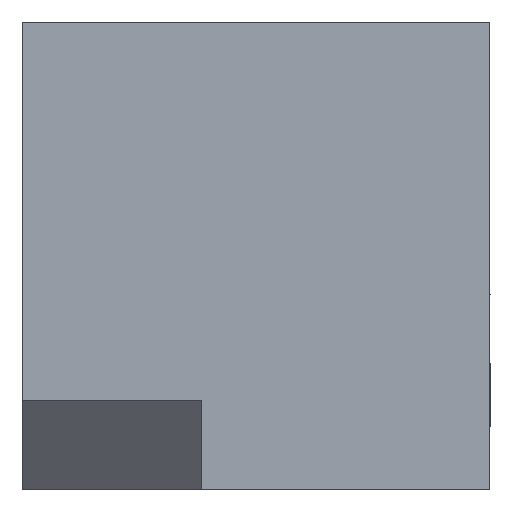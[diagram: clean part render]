
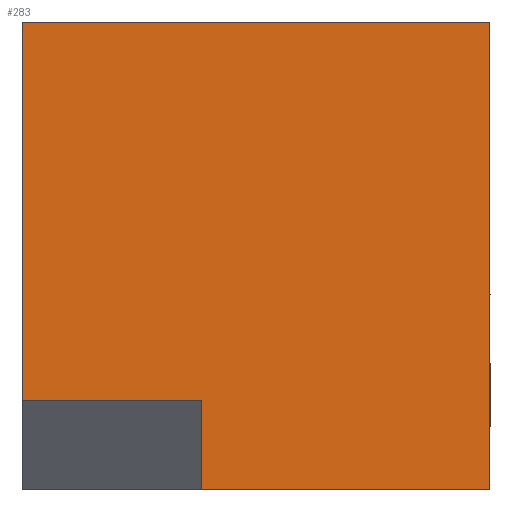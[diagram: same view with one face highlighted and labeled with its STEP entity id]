
A CAD part, left-side view. The second image highlights one B-rep face of the part: STEP entity #283.
In plain terms, the highlighted planar face has unit normal (-1, 0, 0).
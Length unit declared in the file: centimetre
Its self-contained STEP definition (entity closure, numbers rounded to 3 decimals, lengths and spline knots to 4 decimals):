
#3 = ORIENTED_EDGE ( 'NONE', *, *, #810, .T. ) ;
#35 = CARTESIAN_POINT ( 'NONE',  ( 0., 0., 1000. ) ) ;
#54 = VERTEX_POINT ( 'NONE', #531 ) ;
#58 = LINE ( 'NONE', #1478, #1273 ) ;
#59 = LINE ( 'NONE', #994, #1043 ) ;
#74 = ORIENTED_EDGE ( 'NONE', *, *, #290, .F. ) ;
#116 = CARTESIAN_POINT ( 'NONE',  ( 0., 616.3677, 191.009 ) ) ;
#132 = DIRECTION ( 'NONE',  ( 0., 0., 1. ) ) ;
#145 = CARTESIAN_POINT ( 'NONE',  ( 0., 1000., 1000. ) ) ;
#159 = VERTEX_POINT ( 'NONE', #1132 ) ;
#203 = EDGE_LOOP ( 'NONE', ( #859, #1219, #74, #3, #1465, #1039 ) ) ;
#260 = EDGE_CURVE ( 'NONE', #397, #906, #1021, .T. ) ;
#278 = VERTEX_POINT ( 'NONE', #1416 ) ;
#283 = ADVANCED_FACE ( 'NONE', ( #1052 ), #366, .F. ) ;
#285 = VECTOR ( 'NONE', #1431, 100. ) ;
#290 = EDGE_CURVE ( 'NONE', #54, #1207, #828, .T. ) ;
#365 = EDGE_CURVE ( 'NONE', #397, #278, #1435, .T. ) ;
#366 = PLANE ( 'NONE',  #707 ) ;
#397 = VERTEX_POINT ( 'NONE', #145 ) ;
#452 = DIRECTION ( 'NONE',  ( 0., -1., 0. ) ) ;
#477 = CARTESIAN_POINT ( 'NONE',  ( 0., 1000., 1000. ) ) ;
#531 = CARTESIAN_POINT ( 'NONE',  ( 0., 616.3677, 0. ) ) ;
#560 = EDGE_CURVE ( 'NONE', #906, #159, #58, .T. ) ;
#590 = CARTESIAN_POINT ( 'NONE',  ( 0., 616.3677, 0. ) ) ;
#598 = DIRECTION ( 'NONE',  ( 0., 0., -1. ) ) ;
#707 = AXIS2_PLACEMENT_3D ( 'NONE', #477, #708, #716 ) ;
#708 = DIRECTION ( 'NONE',  ( 1., 0., 0. ) ) ;
#716 = DIRECTION ( 'NONE',  ( 0., 0., -1. ) ) ;
#767 = DIRECTION ( 'NONE',  ( 0., 1., 0. ) ) ;
#810 = EDGE_CURVE ( 'NONE', #54, #159, #1423, .T. ) ;
#828 = LINE ( 'NONE', #590, #897 ) ;
#859 = ORIENTED_EDGE ( 'NONE', *, *, #365, .T. ) ;
#897 = VECTOR ( 'NONE', #132, 100. ) ;
#906 = VERTEX_POINT ( 'NONE', #35 ) ;
#994 = CARTESIAN_POINT ( 'NONE',  ( 0., 616.3677, 191.009 ) ) ;
#1021 = LINE ( 'NONE', #1150, #1371 ) ;
#1039 = ORIENTED_EDGE ( 'NONE', *, *, #260, .F. ) ;
#1043 = VECTOR ( 'NONE', #767, 100. ) ;
#1052 = FACE_OUTER_BOUND ( 'NONE', #203, .T. ) ;
#1056 = CARTESIAN_POINT ( 'NONE',  ( 0., 1000., 1000. ) ) ;
#1063 = EDGE_CURVE ( 'NONE', #1207, #278, #59, .T. ) ;
#1074 = CARTESIAN_POINT ( 'NONE',  ( 0., 1000., 0. ) ) ;
#1132 = CARTESIAN_POINT ( 'NONE',  ( 0., 0., 0. ) ) ;
#1150 = CARTESIAN_POINT ( 'NONE',  ( 0., 1000., 1000. ) ) ;
#1207 = VERTEX_POINT ( 'NONE', #116 ) ;
#1219 = ORIENTED_EDGE ( 'NONE', *, *, #1063, .F. ) ;
#1273 = VECTOR ( 'NONE', #1453, 100. ) ;
#1371 = VECTOR ( 'NONE', #452, 100. ) ;
#1416 = CARTESIAN_POINT ( 'NONE',  ( 0., 1000., 191.009 ) ) ;
#1423 = LINE ( 'NONE', #1074, #285 ) ;
#1431 = DIRECTION ( 'NONE',  ( 0., -1., 0. ) ) ;
#1435 = LINE ( 'NONE', #1056, #1519 ) ;
#1453 = DIRECTION ( 'NONE',  ( 0., 0., -1. ) ) ;
#1465 = ORIENTED_EDGE ( 'NONE', *, *, #560, .F. ) ;
#1478 = CARTESIAN_POINT ( 'NONE',  ( 0., 0., 1000. ) ) ;
#1519 = VECTOR ( 'NONE', #598, 100. ) ;
